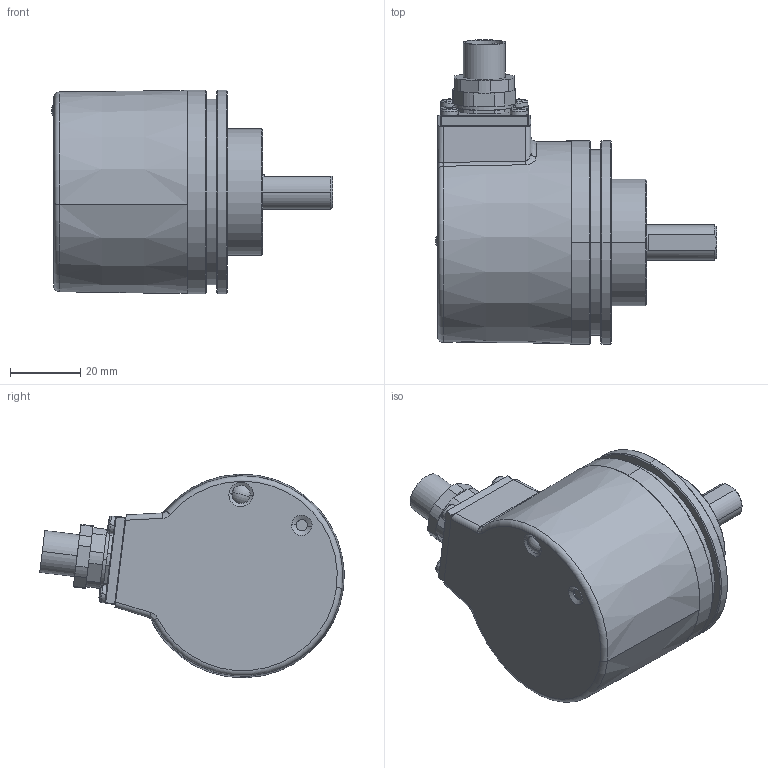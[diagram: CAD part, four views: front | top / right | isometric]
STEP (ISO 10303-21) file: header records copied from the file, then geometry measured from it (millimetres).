
FILE_DESCRIPTION (( 'STEP AP203' ), '1' );
FILE_NAME ('8.F5868.126E.6122.STEP', '2016-03-01T07:21:14', ( 'LauferA' ), ( 'Microsoft' ), 'SwSTEP 2.0', 'SolidWorks 2013', '' );
FILE_SCHEMA (( 'CONFIG_CONTROL_DESIGN' ));
Length unit declared in the file: millimetre
Products named in the file (1): 8.F5868.126E.6122
Bounding box: 80.21 x 86.8 x 58 mm (x, y, z)
Volume: 69109 mm3; surface area: 46134.7 mm2
Topology: 11 solids, 11 shells, 844 faces, 2047 edges, 1215 vertices
Faces by surface type: cylinder 267, plane 247, cone 172, torus 76, bspline 72, sphere 10
Entity records: 27009 total; most frequent: CARTESIAN_POINT 7606, DIRECTION 4242, ORIENTED_EDGE 3930, EDGE_CURVE 1965, AXIS2_PLACEMENT_3D 1738, VERTEX_POINT 1215, CIRCLE 965, EDGE_LOOP 952
